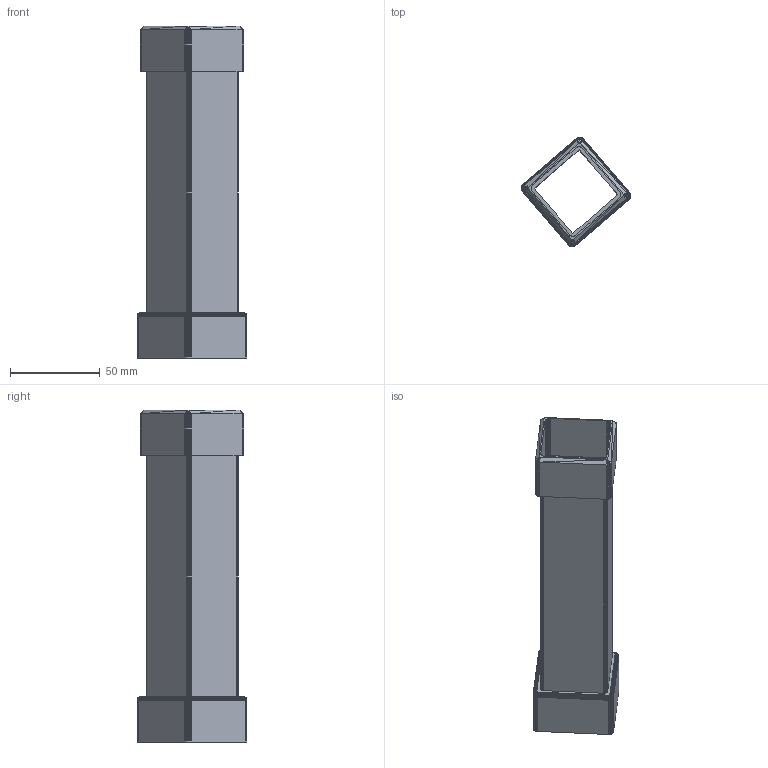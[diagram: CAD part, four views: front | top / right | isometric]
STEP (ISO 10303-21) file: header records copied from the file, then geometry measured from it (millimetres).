
FILE_DESCRIPTION(('Open CASCADE Model'),'2;1');
FILE_NAME('Open CASCADE Shape Model','2026-10-27T23:33:44',('Author'),( 'Open CASCADE'),'Open CASCADE STEP processor 7.9','Open CASCADE 7.9' ,'Unknown');
FILE_SCHEMA(('AUTOMOTIVE_DESIGN { 1 0 10303 214 1 1 1 1 }'));
Products named in the file (1): Open CASCADE STEP translator 7.9 1
Bounding box: 61.12 x 61.12 x 184.78 mm (x, y, z)
Volume: 59242.6 mm3; surface area: 56021.1 mm2
Topology: 1 solids, 1 shells, 1195 faces, 2121 edges, 932 vertices
Faces by surface type: plane 1195
Entity records: 53874 total; most frequent: DIRECTION 8755, CARTESIAN_POINT 8491, LINE 6363, VECTOR 6363, ORIENTED_EDGE 4242, PCURVE 4242, DEFINITIONAL_REPRESENTATION 4242, EDGE_CURVE 2121
